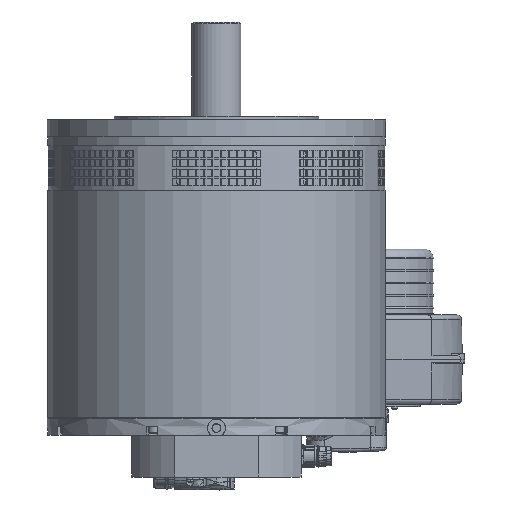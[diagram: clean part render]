
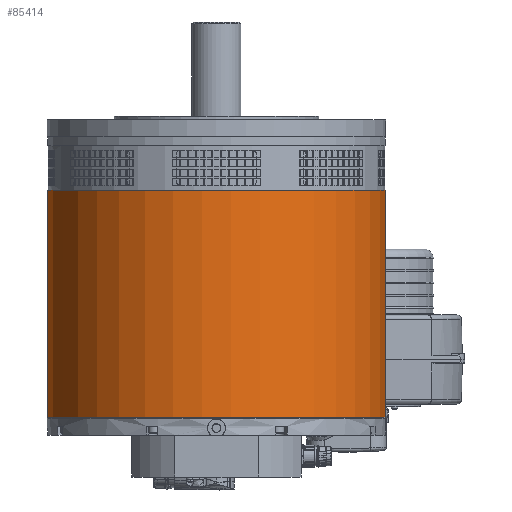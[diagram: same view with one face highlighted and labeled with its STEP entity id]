
A CAD part, front view. The second image highlights one B-rep face of the part: STEP entity #85414.
In plain terms, the highlighted cylindrical face has radius 190 mm (diameter 380 mm), a full revolution.
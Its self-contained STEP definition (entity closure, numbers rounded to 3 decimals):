
#2760=FACE_BOUND('',#15865,.T.);
#2761=FACE_BOUND('',#15866,.T.);
#2762=FACE_BOUND('',#15867,.T.);
#15865=EDGE_LOOP('',(#75279,#75280,#75281,#75282,#75283,#75284,#75285,#75286));
#15866=EDGE_LOOP('',(#75287));
#15867=EDGE_LOOP('',(#75288));
#17003=B_SPLINE_CURVE_WITH_KNOTS('',3,(#153558,#153559,#153560,#153561,
#153562,#153563,#153564,#153565,#153566,#153567),.UNSPECIFIED.,.F.,.F.,
(4,2,2,2,4),(0.762,0.956,1.15,1.338,
1.526),.UNSPECIFIED.);
#17004=B_SPLINE_CURVE_WITH_KNOTS('',3,(#153630,#153631,#153632,#153633,
#153634,#153635,#153636,#153637,#153638,#153639),.UNSPECIFIED.,.F.,.F.,
(4,2,2,2,4),(1.526,1.714,1.902,2.096,
2.29),.UNSPECIFIED.);
#17005=B_SPLINE_CURVE_WITH_KNOTS('',3,(#153645,#153646,#153647,#153648,
#153649,#153650,#153651,#153652,#153653,#153654),.UNSPECIFIED.,.F.,.F.,
(4,2,2,2,4),(-0.764,-0.57,-0.376,-0.188,
0.),.UNSPECIFIED.);
#17006=B_SPLINE_CURVE_WITH_KNOTS('',3,(#153661,#153662,#153663,#153664,
#153665,#153666,#153667,#153668,#153669,#153670),.UNSPECIFIED.,.F.,.F.,
(4,2,2,2,4),(0.,0.188,0.376,0.57,0.764),
 .UNSPECIFIED.);
#22743=LINE('',#153553,#28691);
#22775=LINE('',#153672,#28723);
#28691=VECTOR('',#117580,35.);
#28723=VECTOR('',#117694,35.);
#33365=CIRCLE('',#94334,190.);
#33366=CIRCLE('',#94370,190.);
#33391=CIRCLE('',#94431,190.);
#33392=CIRCLE('',#94433,190.);
#41060=VERTEX_POINT('',#153550);
#41061=VERTEX_POINT('',#153552);
#41062=VERTEX_POINT('',#153556);
#41063=VERTEX_POINT('',#153569);
#41064=VERTEX_POINT('',#153629);
#41065=VERTEX_POINT('',#153642);
#41066=VERTEX_POINT('',#153644);
#41067=VERTEX_POINT('',#153659);
#41092=VERTEX_POINT('',#153755);
#41093=VERTEX_POINT('',#153758);
#52560=EDGE_CURVE('',#41061,#41060,#22743,.T.);
#52563=EDGE_CURVE('',#41062,#41060,#17003,.T.);
#52565=EDGE_CURVE('',#41062,#41063,#33365,.T.);
#52590=EDGE_CURVE('',#41061,#41064,#17004,.T.);
#52593=EDGE_CURVE('',#41065,#41066,#17005,.T.);
#52595=EDGE_CURVE('',#41065,#41064,#33366,.T.);
#52597=EDGE_CURVE('',#41067,#41063,#17006,.T.);
#52598=EDGE_CURVE('',#41067,#41066,#22775,.T.);
#52623=EDGE_CURVE('',#41092,#41092,#33391,.T.);
#52624=EDGE_CURVE('',#41093,#41093,#33392,.T.);
#75279=ORIENTED_EDGE('',*,*,#52560,.T.);
#75280=ORIENTED_EDGE('',*,*,#52563,.F.);
#75281=ORIENTED_EDGE('',*,*,#52565,.T.);
#75282=ORIENTED_EDGE('',*,*,#52597,.F.);
#75283=ORIENTED_EDGE('',*,*,#52598,.T.);
#75284=ORIENTED_EDGE('',*,*,#52593,.F.);
#75285=ORIENTED_EDGE('',*,*,#52595,.T.);
#75286=ORIENTED_EDGE('',*,*,#52590,.F.);
#75287=ORIENTED_EDGE('',*,*,#52623,.T.);
#75288=ORIENTED_EDGE('',*,*,#52624,.F.);
#78282=CYLINDRICAL_SURFACE('',#94432,190.);
#85414=ADVANCED_FACE('',(#2760,#2761,#2762),#78282,.T.);
#94334=AXIS2_PLACEMENT_3D('',#153571,#117588,#117589);
#94370=AXIS2_PLACEMENT_3D('',#153657,#117687,#117688);
#94431=AXIS2_PLACEMENT_3D('',#153756,#117811,#117812);
#94432=AXIS2_PLACEMENT_3D('',#153757,#117813,#117814);
#94433=AXIS2_PLACEMENT_3D('',#153759,#117815,#117816);
#117580=DIRECTION('',(0.,0.,1.));
#117588=DIRECTION('center_axis',(0.,0.,1.));
#117589=DIRECTION('ref_axis',(0.707,0.707,0.));
#117687=DIRECTION('center_axis',(0.,0.,-1.));
#117688=DIRECTION('ref_axis',(0.707,0.707,0.));
#117694=DIRECTION('',(0.,0.,-1.));
#117811=DIRECTION('center_axis',(0.,0.,-1.));
#117812=DIRECTION('ref_axis',(0.707,-0.707,0.));
#117813=DIRECTION('center_axis',(0.,0.,-1.));
#117814=DIRECTION('ref_axis',(0.707,0.707,0.));
#117815=DIRECTION('center_axis',(0.,0.,-1.));
#117816=DIRECTION('ref_axis',(0.707,-0.707,0.));
#153550=CARTESIAN_POINT('',(163.409,96.941,-263.));
#153552=CARTESIAN_POINT('',(163.409,96.941,-298.));
#153553=CARTESIAN_POINT('',(163.409,96.941,-187.5));
#153556=CARTESIAN_POINT('',(160.725,101.328,-258.));
#153558=CARTESIAN_POINT('Ctrl Pts',(160.725,101.328,-258.));
#153559=CARTESIAN_POINT('Ctrl Pts',(161.07,100.782,-258.));
#153560=CARTESIAN_POINT('Ctrl Pts',(161.435,100.196,-258.126));
#153561=CARTESIAN_POINT('Ctrl Pts',(162.103,99.112,-258.642));
#153562=CARTESIAN_POINT('Ctrl Pts',(162.405,98.614,-259.031));
#153563=CARTESIAN_POINT('Ctrl Pts',(162.875,97.836,-259.923));
#153564=CARTESIAN_POINT('Ctrl Pts',(163.076,97.5,-260.481));
#153565=CARTESIAN_POINT('Ctrl Pts',(163.343,97.052,-261.705));
#153566=CARTESIAN_POINT('Ctrl Pts',(163.409,96.941,-262.373));
#153567=CARTESIAN_POINT('Ctrl Pts',(163.409,96.941,-263.));
#153569=CARTESIAN_POINT('',(101.328,160.725,-258.));
#153571=CARTESIAN_POINT('Origin',(0.,0.,-258.));
#153629=CARTESIAN_POINT('',(160.725,101.328,-303.));
#153630=CARTESIAN_POINT('Ctrl Pts',(163.409,96.941,-298.));
#153631=CARTESIAN_POINT('Ctrl Pts',(163.409,96.941,-298.627));
#153632=CARTESIAN_POINT('Ctrl Pts',(163.343,97.052,-299.295));
#153633=CARTESIAN_POINT('Ctrl Pts',(163.076,97.5,-300.519));
#153634=CARTESIAN_POINT('Ctrl Pts',(162.875,97.836,-301.077));
#153635=CARTESIAN_POINT('Ctrl Pts',(162.405,98.614,-301.969));
#153636=CARTESIAN_POINT('Ctrl Pts',(162.103,99.112,-302.358));
#153637=CARTESIAN_POINT('Ctrl Pts',(161.435,100.196,-302.874));
#153638=CARTESIAN_POINT('Ctrl Pts',(161.07,100.782,-303.));
#153639=CARTESIAN_POINT('Ctrl Pts',(160.725,101.328,-303.));
#153642=CARTESIAN_POINT('',(101.328,160.725,-303.));
#153644=CARTESIAN_POINT('',(96.941,163.409,-298.));
#153645=CARTESIAN_POINT('Ctrl Pts',(101.328,160.725,-303.));
#153646=CARTESIAN_POINT('Ctrl Pts',(100.782,161.07,-303.));
#153647=CARTESIAN_POINT('Ctrl Pts',(100.196,161.435,-302.874));
#153648=CARTESIAN_POINT('Ctrl Pts',(99.112,162.103,-302.358));
#153649=CARTESIAN_POINT('Ctrl Pts',(98.614,162.405,-301.969));
#153650=CARTESIAN_POINT('Ctrl Pts',(97.836,162.875,-301.077));
#153651=CARTESIAN_POINT('Ctrl Pts',(97.5,163.076,-300.519));
#153652=CARTESIAN_POINT('Ctrl Pts',(97.052,163.343,-299.295));
#153653=CARTESIAN_POINT('Ctrl Pts',(96.941,163.409,-298.627));
#153654=CARTESIAN_POINT('Ctrl Pts',(96.941,163.409,-298.));
#153657=CARTESIAN_POINT('Origin',(0.,0.,-303.));
#153659=CARTESIAN_POINT('',(96.941,163.409,-263.));
#153661=CARTESIAN_POINT('Ctrl Pts',(96.941,163.409,-263.));
#153662=CARTESIAN_POINT('Ctrl Pts',(96.941,163.409,-262.373));
#153663=CARTESIAN_POINT('Ctrl Pts',(97.052,163.343,-261.705));
#153664=CARTESIAN_POINT('Ctrl Pts',(97.5,163.076,-260.481));
#153665=CARTESIAN_POINT('Ctrl Pts',(97.836,162.875,-259.923));
#153666=CARTESIAN_POINT('Ctrl Pts',(98.614,162.405,-259.031));
#153667=CARTESIAN_POINT('Ctrl Pts',(99.112,162.103,-258.642));
#153668=CARTESIAN_POINT('Ctrl Pts',(100.196,161.435,-258.126));
#153669=CARTESIAN_POINT('Ctrl Pts',(100.782,161.07,-258.));
#153670=CARTESIAN_POINT('Ctrl Pts',(101.328,160.725,-258.));
#153672=CARTESIAN_POINT('',(96.941,163.409,-187.5));
#153755=CARTESIAN_POINT('',(134.35,134.35,-60.));
#153756=CARTESIAN_POINT('Origin',(0.,0.,-60.));
#153757=CARTESIAN_POINT('Origin',(0.,0.,-187.5));
#153758=CARTESIAN_POINT('',(134.35,134.35,-315.));
#153759=CARTESIAN_POINT('Origin',(0.,0.,-315.));
